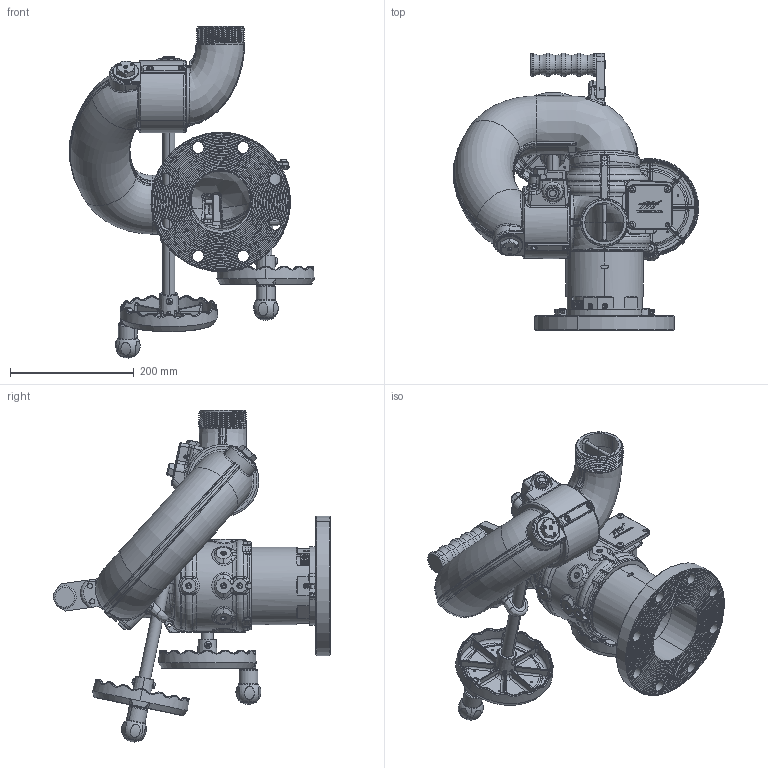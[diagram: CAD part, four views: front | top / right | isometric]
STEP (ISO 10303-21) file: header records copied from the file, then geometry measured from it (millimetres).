
FILE_DESCRIPTION (( 'STEP AP203' ), '1' );
FILE_NAME ('XFIH-D21A_Horizontal.STEP', '2014-10-20T20:17:02', ( '' ), ( '' ), 'SwSTEP 2.0', 'SolidWorks 2014', '' );
FILE_SCHEMA (( 'CONFIG_CONTROL_DESIGN' ));
Length unit declared in the file: inch
Products named in the file (1): XFIH-D21A_Horizontal
Bounding box: 397.2 x 448.78 x 537.52 mm (x, y, z)
Surface area: 850047.2 mm2 (no closed solid volume)
Topology: 0 solids, 134 shells, 2714 faces, 9666 edges, 6850 vertices
Faces by surface type: bspline 798, cylinder 607, plane 567, torus 491, cone 202, sphere 49
Entity records: 168834 total; most frequent: CARTESIAN_POINT 95185, ORIENTED_EDGE 15316, DIRECTION 13405, EDGE_CURVE 9634, VERTEX_POINT 6846, AXIS2_PLACEMENT_3D 5078, VECTOR 3249, LINE 3249
